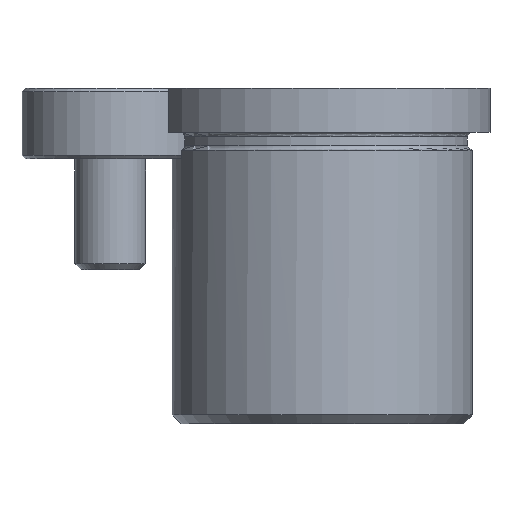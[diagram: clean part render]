
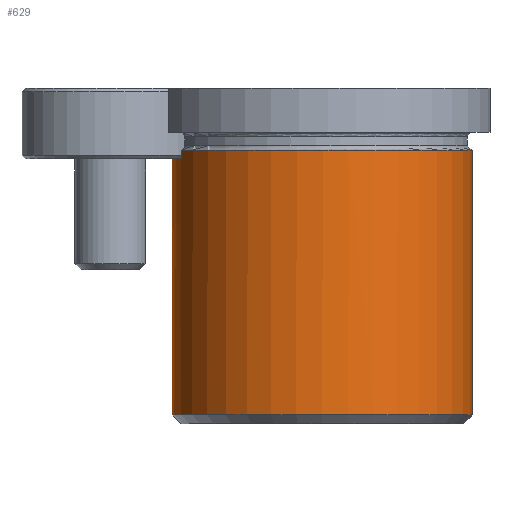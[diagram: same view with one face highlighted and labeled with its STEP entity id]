
A CAD part, front view. The second image highlights one B-rep face of the part: STEP entity #629.
In plain terms, the highlighted cylindrical face has radius 17 mm (diameter 34 mm), a partial arc.
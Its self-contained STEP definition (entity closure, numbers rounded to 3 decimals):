
#11 = DIRECTION ( 'NONE',  ( 0., 0., 1. ) ) ;
#37 = CARTESIAN_POINT ( 'NONE',  ( 0., 0., -15.5 ) ) ;
#77 = CIRCLE ( 'NONE', #1097, 17. ) ;
#117 = CARTESIAN_POINT ( 'NONE',  ( -15.938, -5.916, 17.5 ) ) ;
#120 = CARTESIAN_POINT ( 'NONE',  ( -15.938, -5.916, 13.5 ) ) ;
#136 = CARTESIAN_POINT ( 'NONE',  ( 17., 0., -15.5 ) ) ;
#157 = EDGE_CURVE ( 'NONE', #294, #1040, #1644, .T. ) ;
#227 = VECTOR ( 'NONE', #711, 1000. ) ;
#230 = ORIENTED_EDGE ( 'NONE', *, *, #1388, .F. ) ;
#262 = VERTEX_POINT ( 'NONE', #1155 ) ;
#294 = VERTEX_POINT ( 'NONE', #737 ) ;
#307 = CARTESIAN_POINT ( 'NONE',  ( 17., 0., 16.5 ) ) ;
#357 = VECTOR ( 'NONE', #1081, 1000. ) ;
#439 = AXIS2_PLACEMENT_3D ( 'NONE', #2544, #1346, #572 ) ;
#572 = DIRECTION ( 'NONE',  ( 1., 0., 0. ) ) ;
#629 = ADVANCED_FACE ( 'NONE', ( #2288 ), #1396, .T. ) ;
#711 = DIRECTION ( 'NONE',  ( 0., 0., -1. ) ) ;
#737 = CARTESIAN_POINT ( 'NONE',  ( -15.938, -5.916, 14.5 ) ) ;
#841 = CARTESIAN_POINT ( 'NONE',  ( -17., 0., 13.5 ) ) ;
#856 = VERTEX_POINT ( 'NONE', #1046 ) ;
#915 = VERTEX_POINT ( 'NONE', #841 ) ;
#1011 = ORIENTED_EDGE ( 'NONE', *, *, #1013, .F. ) ;
#1013 = EDGE_CURVE ( 'NONE', #856, #1769, #2346, .T. ) ;
#1040 = VERTEX_POINT ( 'NONE', #120 ) ;
#1046 = CARTESIAN_POINT ( 'NONE',  ( 17., 0., 14.5 ) ) ;
#1050 = AXIS2_PLACEMENT_3D ( 'NONE', #37, #1607, #1423 ) ;
#1081 = DIRECTION ( 'NONE',  ( 0., 0., -1. ) ) ;
#1097 = AXIS2_PLACEMENT_3D ( 'NONE', #2190, #11, #1582 ) ;
#1155 = CARTESIAN_POINT ( 'NONE',  ( -17., 0., -15.5 ) ) ;
#1204 = EDGE_CURVE ( 'NONE', #915, #262, #2315, .T. ) ;
#1239 = VECTOR ( 'NONE', #1372, 1000. ) ;
#1245 = EDGE_LOOP ( 'NONE', ( #1011, #1748, #2025, #230, #2321, #2028 ) ) ;
#1346 = DIRECTION ( 'NONE',  ( 0., 0., 1. ) ) ;
#1372 = DIRECTION ( 'NONE',  ( 0., 0., -1. ) ) ;
#1388 = EDGE_CURVE ( 'NONE', #915, #1040, #77, .T. ) ;
#1396 = CYLINDRICAL_SURFACE ( 'NONE', #1846, 17. ) ;
#1423 = DIRECTION ( 'NONE',  ( 1., 0., 0. ) ) ;
#1462 = DIRECTION ( 'NONE',  ( -1., 0., 0. ) ) ;
#1582 = DIRECTION ( 'NONE',  ( 1., 0., 0. ) ) ;
#1607 = DIRECTION ( 'NONE',  ( 0., 0., 1. ) ) ;
#1644 = LINE ( 'NONE', #117, #227 ) ;
#1646 = CARTESIAN_POINT ( 'NONE',  ( 0., 0., 16.5 ) ) ;
#1667 = DIRECTION ( 'NONE',  ( 0., 0., -1. ) ) ;
#1748 = ORIENTED_EDGE ( 'NONE', *, *, #2237, .F. ) ;
#1769 = VERTEX_POINT ( 'NONE', #136 ) ;
#1782 = CIRCLE ( 'NONE', #1050, 17. ) ;
#1846 = AXIS2_PLACEMENT_3D ( 'NONE', #1646, #1667, #1462 ) ;
#2025 = ORIENTED_EDGE ( 'NONE', *, *, #157, .T. ) ;
#2028 = ORIENTED_EDGE ( 'NONE', *, *, #2302, .T. ) ;
#2190 = CARTESIAN_POINT ( 'NONE',  ( 0., 0., 13.5 ) ) ;
#2237 = EDGE_CURVE ( 'NONE', #294, #856, #2394, .T. ) ;
#2288 = FACE_OUTER_BOUND ( 'NONE', #1245, .T. ) ;
#2302 = EDGE_CURVE ( 'NONE', #262, #1769, #1782, .T. ) ;
#2315 = LINE ( 'NONE', #2541, #1239 ) ;
#2321 = ORIENTED_EDGE ( 'NONE', *, *, #1204, .T. ) ;
#2346 = LINE ( 'NONE', #307, #357 ) ;
#2394 = CIRCLE ( 'NONE', #439, 17. ) ;
#2541 = CARTESIAN_POINT ( 'NONE',  ( -17., 0., 16.5 ) ) ;
#2544 = CARTESIAN_POINT ( 'NONE',  ( 0., 0., 14.5 ) ) ;
